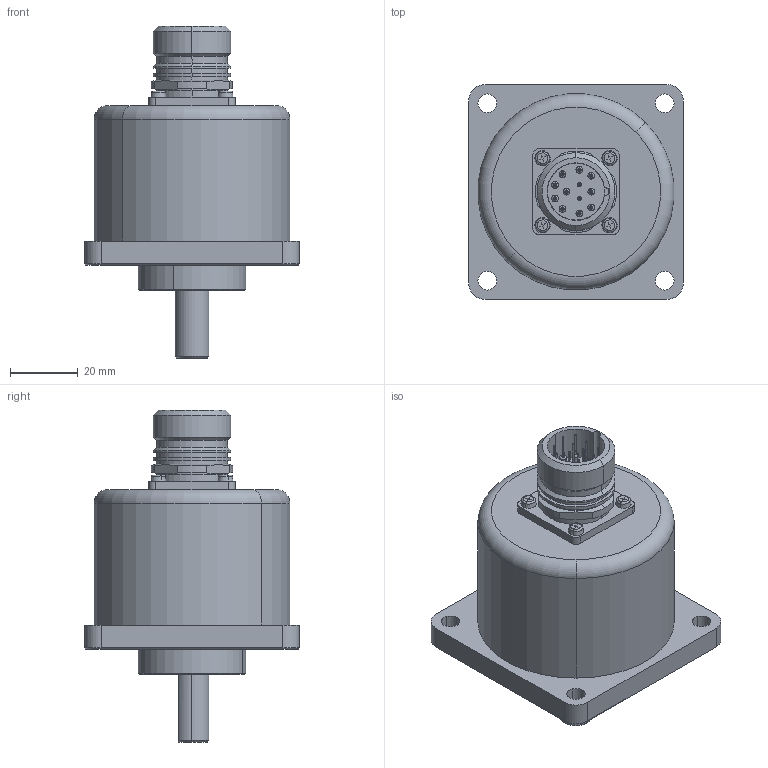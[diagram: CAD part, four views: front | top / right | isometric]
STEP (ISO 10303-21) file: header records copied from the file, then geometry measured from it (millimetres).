
FILE_DESCRIPTION (( 'STEP AP214' ), '1' );
FILE_NAME ('8.5803.M2X3.XXXX.STEP', '2010-12-17T13:44:13', ( 'admin' ), ( 'Fritz Kübler GmbH' ), 'SwSTEP 2.0', 'SolidWorks 2009', '' );
FILE_SCHEMA (( 'AUTOMOTIVE_DESIGN' ));
Length unit declared in the file: millimetre
Products named in the file (1): 8.5803.M2X3.XXXX
Bounding box: 63.5 x 63.5 x 98.05 mm (x, y, z)
Surface area: 23731.1 mm2 (no closed solid volume)
Topology: 0 solids, 32 shells, 278 faces, 743 edges, 484 vertices
Faces by surface type: cylinder 112, plane 76, torus 38, cone 28, sphere 24
Entity records: 11731 total; most frequent: DIRECTION 1708, CARTESIAN_POINT 1520, ORIENTED_EDGE 1251, AXIS2_PLACEMENT_3D 720, EDGE_CURVE 719, VERTEX_POINT 484, CIRCLE 441, EDGE_LOOP 335
